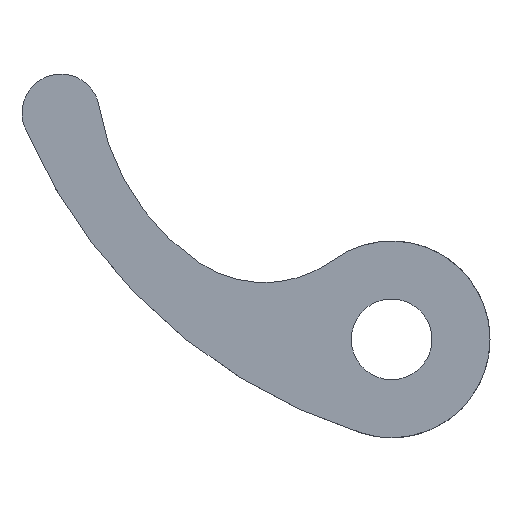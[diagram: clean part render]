
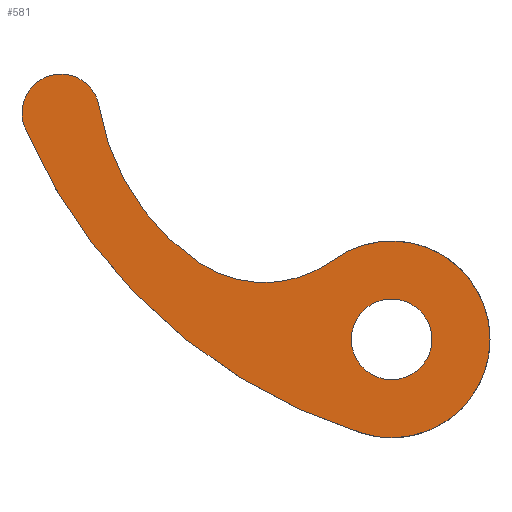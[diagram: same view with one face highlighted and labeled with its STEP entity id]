
A CAD part, top view. The second image highlights one B-rep face of the part: STEP entity #581.
In plain terms, the highlighted planar face has unit normal (0, 0, 1).
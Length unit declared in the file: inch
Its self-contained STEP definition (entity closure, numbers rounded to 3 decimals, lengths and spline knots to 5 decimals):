
#6 = EDGE_CURVE ( 'NONE', #392, #702, #383, .T. ) ;
#26 = VERTEX_POINT ( 'NONE', #222 ) ;
#35 = AXIS2_PLACEMENT_3D ( 'NONE', #317, #747, #242 ) ;
#47 = PLANE ( 'NONE',  #641 ) ;
#60 = DIRECTION ( 'NONE',  ( 1., 0., 0. ) ) ;
#89 = AXIS2_PLACEMENT_3D ( 'NONE', #966, #149, #597 ) ;
#94 = EDGE_CURVE ( 'NONE', #475, #879, #490, .T. ) ;
#112 = ORIENTED_EDGE ( 'NONE', *, *, #94, .F. ) ;
#113 = AXIS2_PLACEMENT_3D ( 'NONE', #556, #688, #257 ) ;
#122 = DIRECTION ( 'NONE',  ( 0., 0., -1. ) ) ;
#127 = ORIENTED_EDGE ( 'NONE', *, *, #743, .F. ) ;
#134 = ORIENTED_EDGE ( 'NONE', *, *, #812, .F. ) ;
#138 = CARTESIAN_POINT ( 'NONE',  ( -2.35972, 1.36049, 0.15748 ) ) ;
#146 = DIRECTION ( 'NONE',  ( 1., 0., 0. ) ) ;
#149 = DIRECTION ( 'NONE',  ( 0., 0., 1. ) ) ;
#178 = CARTESIAN_POINT ( 'NONE',  ( 0., 0., 0.15748 ) ) ;
#184 = EDGE_CURVE ( 'NONE', #26, #285, #406, .T. ) ;
#193 = CARTESIAN_POINT ( 'NONE',  ( 0.26, 0., 0.15748 ) ) ;
#200 = EDGE_CURVE ( 'NONE', #702, #26, #951, .T. ) ;
#222 = CARTESIAN_POINT ( 'NONE',  ( 0.63374, 0., 0.15748 ) ) ;
#223 = ORIENTED_EDGE ( 'NONE', *, *, #200, .F. ) ;
#224 = EDGE_CURVE ( 'NONE', #731, #535, #569, .T. ) ;
#242 = DIRECTION ( 'NONE',  ( 1., 0., 0. ) ) ;
#257 = DIRECTION ( 'NONE',  ( 1., 0., 0. ) ) ;
#262 = DIRECTION ( 'NONE',  ( -1., 0., 0. ) ) ;
#263 = EDGE_CURVE ( 'NONE', #535, #392, #746, .T. ) ;
#272 = AXIS2_PLACEMENT_3D ( 'NONE', #712, #122, #570 ) ;
#281 = CIRCLE ( 'NONE', #906, 0.26 ) ;
#285 = VERTEX_POINT ( 'NONE', #908 ) ;
#317 = CARTESIAN_POINT ( 'NONE',  ( 0.85933, 2.73441, 0.15748 ) ) ;
#350 = ORIENTED_EDGE ( 'NONE', *, *, #6, .F. ) ;
#364 = CARTESIAN_POINT ( 'NONE',  ( 0., 0., 0.15748 ) ) ;
#377 = CIRCLE ( 'NONE', #35, 3.5 ) ;
#383 = CIRCLE ( 'NONE', #89, 0.75 ) ;
#392 = VERTEX_POINT ( 'NONE', #411 ) ;
#400 = AXIS2_PLACEMENT_3D ( 'NONE', #552, #468, #262 ) ;
#406 = CIRCLE ( 'NONE', #826, 0.63374 ) ;
#411 = CARTESIAN_POINT ( 'NONE',  ( -1.23515, 0.49166, 0.15748 ) ) ;
#417 = CARTESIAN_POINT ( 'NONE',  ( 0., 0., 0.15748 ) ) ;
#431 = EDGE_LOOP ( 'NONE', ( #127, #112 ) ) ;
#437 = DIRECTION ( 'NONE',  ( 0., 0., 1. ) ) ;
#444 = AXIS2_PLACEMENT_3D ( 'NONE', #607, #898, #459 ) ;
#449 = AXIS2_PLACEMENT_3D ( 'NONE', #178, #538, #844 ) ;
#453 = EDGE_LOOP ( 'NONE', ( #223, #350, #593, #718, #953, #134, #943 ) ) ;
#459 = DIRECTION ( 'NONE',  ( 1., 0., 0. ) ) ;
#468 = DIRECTION ( 'NONE',  ( 0., 0., 1. ) ) ;
#475 = VERTEX_POINT ( 'NONE', #193 ) ;
#490 = CIRCLE ( 'NONE', #449, 0.26 ) ;
#528 = CARTESIAN_POINT ( 'NONE',  ( -2.37979, 1.45863, 0.15748 ) ) ;
#535 = VERTEX_POINT ( 'NONE', #732 ) ;
#538 = DIRECTION ( 'NONE',  ( 0., 0., 1. ) ) ;
#552 = CARTESIAN_POINT ( 'NONE',  ( -0.40244, 1.7393, 0.15748 ) ) ;
#556 = CARTESIAN_POINT ( 'NONE',  ( -2.12979, 1.45863, 0.15748 ) ) ;
#569 = CIRCLE ( 'NONE', #113, 0.25 ) ;
#570 = DIRECTION ( 'NONE',  ( -1., 0., 0. ) ) ;
#581 = ADVANCED_FACE ( 'NONE', ( #634, #600 ), #47, .T. ) ;
#582 = VERTEX_POINT ( 'NONE', #138 ) ;
#593 = ORIENTED_EDGE ( 'NONE', *, *, #263, .F. ) ;
#596 = DIRECTION ( 'NONE',  ( 0., 0., 1. ) ) ;
#597 = DIRECTION ( 'NONE',  ( 1., 0., 0. ) ) ;
#600 = FACE_OUTER_BOUND ( 'NONE', #453, .T. ) ;
#607 = CARTESIAN_POINT ( 'NONE',  ( -2.12979, 1.45863, 0.15748 ) ) ;
#634 = FACE_BOUND ( 'NONE', #431, .T. ) ;
#640 = DIRECTION ( 'NONE',  ( 0., 0., -1. ) ) ;
#641 = AXIS2_PLACEMENT_3D ( 'NONE', #789, #437, #60 ) ;
#642 = DIRECTION ( 'NONE',  ( -1., 0., 0. ) ) ;
#643 = CIRCLE ( 'NONE', #444, 0.25 ) ;
#688 = DIRECTION ( 'NONE',  ( 0., 0., -1. ) ) ;
#702 = VERTEX_POINT ( 'NONE', #738 ) ;
#712 = CARTESIAN_POINT ( 'NONE',  ( 0., 0., 0.15748 ) ) ;
#718 = ORIENTED_EDGE ( 'NONE', *, *, #224, .F. ) ;
#731 = VERTEX_POINT ( 'NONE', #528 ) ;
#732 = CARTESIAN_POINT ( 'NONE',  ( -1.88303, 1.49872, 0.15748 ) ) ;
#738 = CARTESIAN_POINT ( 'NONE',  ( -0.375, 0.51088, 0.15748 ) ) ;
#743 = EDGE_CURVE ( 'NONE', #879, #475, #281, .T. ) ;
#746 = CIRCLE ( 'NONE', #400, 1.5 ) ;
#747 = DIRECTION ( 'NONE',  ( 0., 0., -1. ) ) ;
#779 = EDGE_CURVE ( 'NONE', #582, #731, #643, .T. ) ;
#789 = CARTESIAN_POINT ( 'NONE',  ( 0., 0., 0.15748 ) ) ;
#812 = EDGE_CURVE ( 'NONE', #285, #582, #377, .T. ) ;
#826 = AXIS2_PLACEMENT_3D ( 'NONE', #417, #640, #642 ) ;
#830 = CARTESIAN_POINT ( 'NONE',  ( -0.26, 0., 0.15748 ) ) ;
#844 = DIRECTION ( 'NONE',  ( 1., 0., 0. ) ) ;
#879 = VERTEX_POINT ( 'NONE', #830 ) ;
#898 = DIRECTION ( 'NONE',  ( 0., 0., -1. ) ) ;
#906 = AXIS2_PLACEMENT_3D ( 'NONE', #364, #596, #146 ) ;
#908 = CARTESIAN_POINT ( 'NONE',  ( -0.19, -0.60458, 0.15748 ) ) ;
#943 = ORIENTED_EDGE ( 'NONE', *, *, #184, .F. ) ;
#951 = CIRCLE ( 'NONE', #272, 0.63374 ) ;
#953 = ORIENTED_EDGE ( 'NONE', *, *, #779, .F. ) ;
#966 = CARTESIAN_POINT ( 'NONE',  ( -0.8188, 1.11548, 0.15748 ) ) ;
